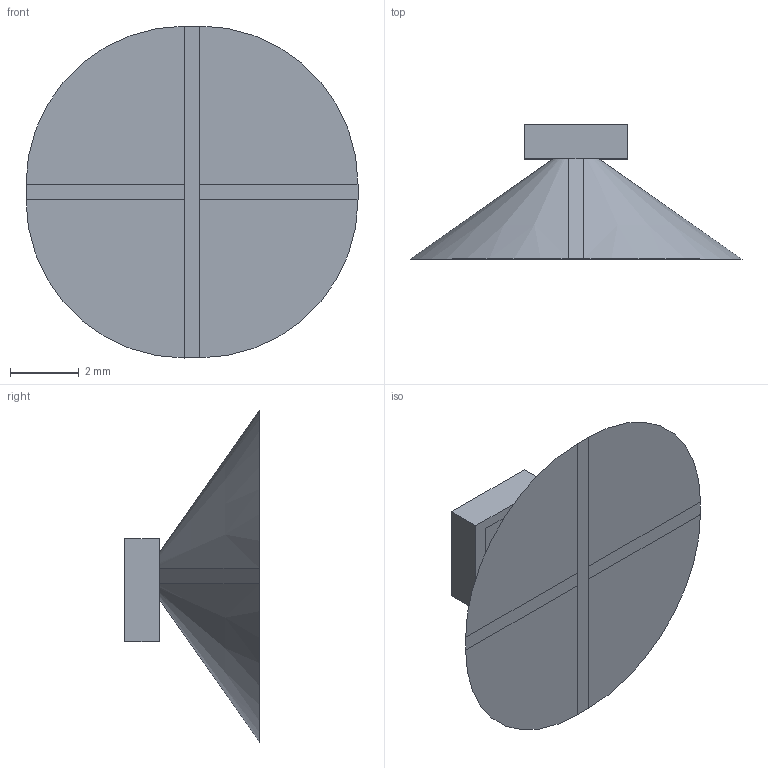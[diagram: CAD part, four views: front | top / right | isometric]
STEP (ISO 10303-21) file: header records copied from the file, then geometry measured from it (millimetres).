
FILE_DESCRIPTION((''),'2;1');
FILE_NAME('MLX90632-10_ASM','2015-12-02T',('jre'),(''),'PRO/ENGINEER BY PARAMETRIC TECHNOLOGY CORPORATION, 2010280','PRO/ENGINEER BY PARAMETRIC TECHNOLOGY CORPORATION, 2010280','');
FILE_SCHEMA(('CONFIG_CONTROL_DESIGN'));
Length unit declared in the file: millimetre
Products named in the file (6): MLX90632-MODEL-10; B; C; A; CONE_ASM; MLX90632-10_ASM
Assembly tree (9 placements, depth 3):
  MLX90632-10_ASM
    MLX90632-MODEL-10
    CONE_ASM
      B
      C  x2
      A  x4
Bounding box: 9.68 x 3.92 x 9.68 mm (x, y, z)
Volume: 94.7 mm3; surface area: 321.7 mm2
Topology: 8 solids, 8 shells, 82 faces, 174 edges, 116 vertices
Faces by surface type: plane 71, cylinder 7, cone 4
Entity records: 1876 total; most frequent: DIRECTION 317, CARTESIAN_POINT 308, ORIENTED_EDGE 270, EDGE_CURVE 135, VECTOR 119, LINE 119, AXIS2_PLACEMENT_3D 99, VERTEX_POINT 90
